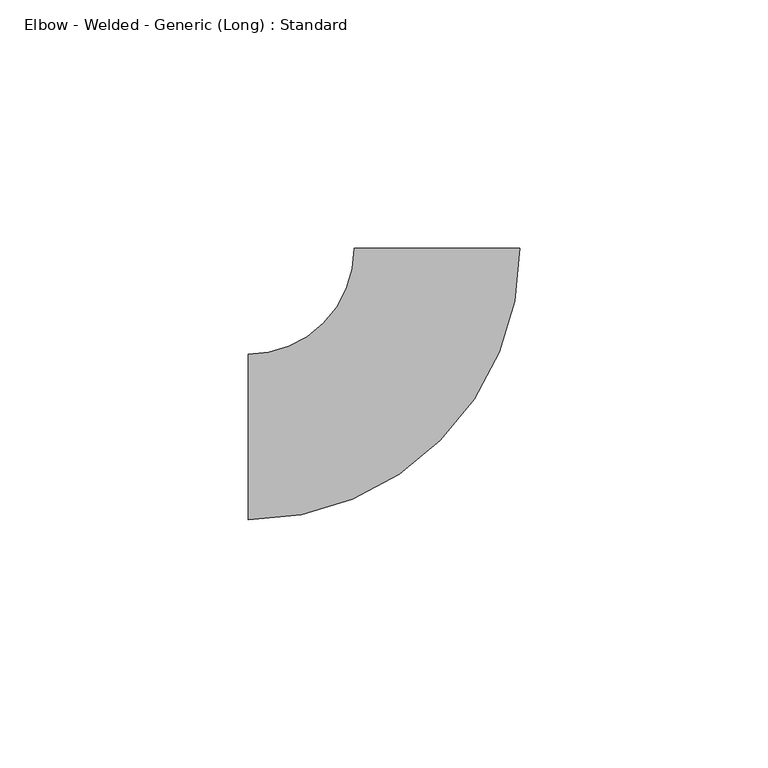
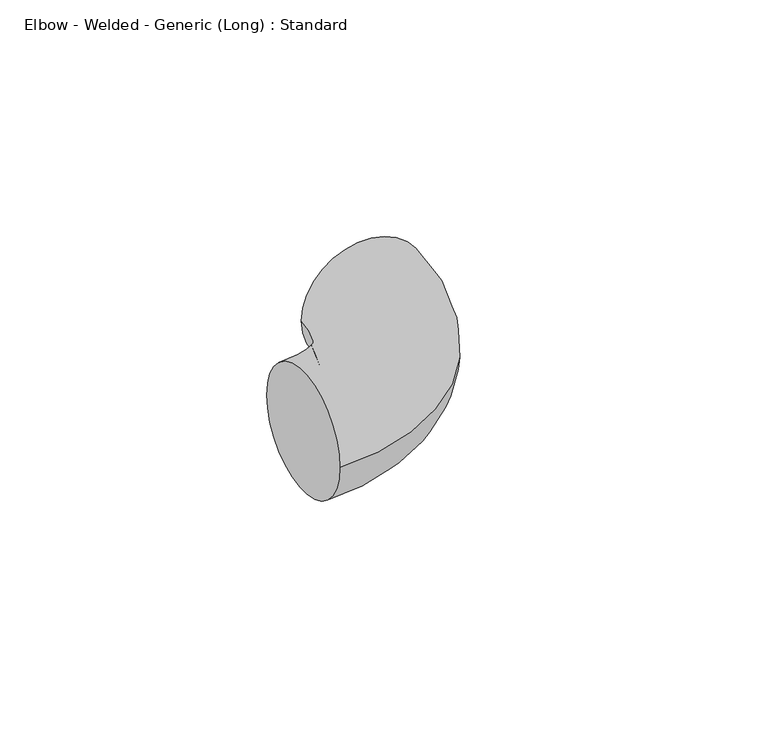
"""IFC4 building model written with IfcOpenShell, lengths in millimetres: pipe fitting geometry, Elbow - Welded - Generic (Long) : Standard."""

import ifcopenshell
import ifcopenshell.guid

model = None  # the IFC model being written
_history = None  # IfcOwnerHistory: only IFC2X3 demands one
_inside = {}  # id of a spatial element -> (the spatial element, [elements in it])
_under = {}  # id of a project, library or spatial element -> (it, [spatial elements below it])
_declared = {}  # id of a project -> (the project, [libraries it declares])
_typed = {}  # id of a type object -> (the type object, [elements of that type])
_made_of = {}  # id of a material, layer set ... -> (it, [elements and type objects made of it])


def new_model(schema):
    """Start an empty IFC model of exactly this schema.

    Asked for "IFC4X3", IfcOpenShell would pick the latest addendum, in which some entities
    have other attributes; the version numbers below select the first issue.
    IFC2X3 requires an IfcOwnerHistory on every rooted entity: one is made here for all.
    """
    global model, _history
    if schema == "IFC4X3":
        model = ifcopenshell.file(schema_version=(4, 3, 0, 0))
    else:
        model = ifcopenshell.file(schema=schema)
    _inside.clear()
    _under.clear()
    _declared.clear()
    _typed.clear()
    _made_of.clear()
    _history = None
    if model.schema == "IFC2X3":
        org = make("IfcOrganization", Name="unknown")
        user = make(
            "IfcPersonAndOrganization",
            ThePerson=make("IfcPerson", FamilyName="unknown"),
            TheOrganization=org,
        )
        app = make(
            "IfcApplication",
            ApplicationDeveloper=org,
            Version="unknown",
            ApplicationFullName="unknown",
            ApplicationIdentifier="unknown",
        )
        _history = make(
            "IfcOwnerHistory",
            OwningUser=user,
            OwningApplication=app,
            ChangeAction="ADDED",
            CreationDate=0,
        )
    return model


def make(cls, **values):
    """One entity of the class cls with the attributes given. An attribute that is None is left unset."""
    return model.create_entity(
        cls, **{name: value for name, value in values.items() if value is not None}
    )


def rooted(cls, **values):
    """An entity with a GlobalId (a new one), such as an element, a storey or a relation."""
    return make(cls, GlobalId=ifcopenshell.guid.new(), OwnerHistory=_history, **values)


def si_unit(unit_type, name, prefix=None):
    """IfcSIUnit, for example si_unit("LENGTHUNIT", "METRE", prefix="MILLI")."""
    return make("IfcSIUnit", UnitType=unit_type, Prefix=prefix, Name=name)


def assignment(units):
    """IfcUnitAssignment: the units of a project."""
    return None if units is None else make("IfcUnitAssignment", Units=units)


def point(xyz):
    """IfcCartesianPoint."""
    return None if xyz is None else make("IfcCartesianPoint", Coordinates=xyz)


def direction(xyz):
    """IfcDirection."""
    return None if xyz is None else make("IfcDirection", DirectionRatios=xyz)


def frame(location, z_axis=None, x_axis=None):
    """IfcAxis2Placement3D, a coordinate frame: its origin and axes. An axis left out is left unset."""
    return make(
        "IfcAxis2Placement3D",
        Location=point(location),
        Axis=direction(z_axis),
        RefDirection=direction(x_axis),
    )


def origin():
    """The frame at (0, 0, 0) with its axes left unset."""
    return frame((0.0, 0.0, 0.0))


def place(relative_to, where):
    """IfcLocalPlacement: puts the frame where relative to a parent placement (None: the world)."""
    return make(
        "IfcLocalPlacement", PlacementRelTo=relative_to, RelativePlacement=where
    )


def context(
    kind, dimensions, precision=None, world=None, true_north=None, identifier=None
):
    """IfcGeometricRepresentationContext, for example the 3D "Model" context."""
    return make(
        "IfcGeometricRepresentationContext",
        ContextIdentifier=identifier,
        ContextType=kind,
        CoordinateSpaceDimension=dimensions,
        Precision=precision,
        WorldCoordinateSystem=world,
        TrueNorth=true_north,
    )


def project(units=None, contexts=None):
    """IfcProject with its units and contexts."""
    return rooted(
        "IfcProject",
        Name="project",
        RepresentationContexts=contexts,
        UnitsInContext=assignment(units),
    )


def spatial(cls, under=None, at=None, **own):
    """A site, building, storey or space (cls), placed at a placement, below another one or the project."""
    s = rooted(cls, ObjectPlacement=at, **own)
    if under is not None:
        _under.setdefault(under.id(), (under, []))[1].append(s)
    return s


def circle_curve(where, radius):
    """IfcCircle in the frame where."""
    return make("IfcCircle", Position=where, Radius=radius)


def ellipse_curve(where, semi_axis1, semi_axis2):
    """IfcEllipse in the frame where."""
    return make(
        "IfcEllipse", Position=where, SemiAxis1=semi_axis1, SemiAxis2=semi_axis2
    )


def trimmed(basis, trim1, trim2, sense, master):
    """IfcTrimmedCurve: the piece of a basis curve between two trims."""
    return make(
        "IfcTrimmedCurve",
        BasisCurve=basis,
        Trim1=trim1,
        Trim2=trim2,
        SenseAgreement=sense,
        MasterRepresentation=master,
    )


def shape(context_of_items, identifier, shape_type, items):
    """IfcShapeRepresentation: the items that make up one representation, for example the "Body"."""
    return make(
        "IfcShapeRepresentation",
        ContextOfItems=context_of_items,
        RepresentationIdentifier=identifier,
        RepresentationType=shape_type,
        Items=items,
    )


def source(mapping_origin, context_of_items, identifier, shape_type, items):
    """IfcRepresentationMap: a shape defined once, which mapped items show again and again."""
    return make(
        "IfcRepresentationMap",
        MappingOrigin=mapping_origin,
        MappedRepresentation=shape(context_of_items, identifier, shape_type, items),
    )


def transform(
    local_origin,
    x_axis=None,
    y_axis=None,
    z_axis=None,
    scale=None,
    scale2=None,
    scale3=None,
    uniform=True,
):
    """IfcCartesianTransformationOperator3D, or its non-uniform kind. x_axis, y_axis, z_axis: its Axis1, 2, 3."""
    if uniform:
        return make(
            "IfcCartesianTransformationOperator3D",
            Axis1=direction(x_axis),
            Axis2=direction(y_axis),
            LocalOrigin=point(local_origin),
            Scale=scale,
            Axis3=direction(z_axis),
        )
    return make(
        "IfcCartesianTransformationOperator3DnonUniform",
        Axis1=direction(x_axis),
        Axis2=direction(y_axis),
        LocalOrigin=point(local_origin),
        Scale=scale,
        Axis3=direction(z_axis),
        Scale2=scale2,
        Scale3=scale3,
    )


def mapped(mapping_source, mapping_target):
    """IfcMappedItem: shows the shape of a source again, moved by a transform."""
    return make(
        "IfcMappedItem", MappingSource=mapping_source, MappingTarget=mapping_target
    )


def made_of(thing, what):
    """Note that an element or type object is made of a material, layer set ...; save() writes the relation."""
    if what is not None:
        _made_of.setdefault(what.id(), (what, []))[1].append(thing)
    return thing


def element(
    cls,
    number,
    at=None,
    inside=None,
    cuts=None,
    type_object=None,
    material=None,
    context=None,
    identifier="Body",
    shape_type=None,
    held_by="IfcProductDefinitionShape",
    body=None,
    shapes=None,
    **own,
):
    """One element of the class cls, such as IfcWall. Its Tag is "e" and its number.

    at: its placement. inside: the storey or other place that contains it. cuts: it is an
    opening in that element (IfcRelVoidsElement). A single representation is given by context,
    identifier, shape_type and body (its items); several are given by shapes. held_by: the class
    of the entity that holds the representations. save() writes the other relations.
    """
    e = rooted(cls, Tag="e%d" % number, ObjectPlacement=at, **own)
    if body is not None:
        shapes = [shape(context, identifier, shape_type, body)]
    if shapes is not None:
        e.Representation = make(held_by, Representations=shapes)
    if inside is not None:
        _inside.setdefault(inside.id(), (inside, []))[1].append(e)
    if cuts is not None:
        rooted(
            "IfcRelVoidsElement", RelatingBuildingElement=cuts, RelatedOpeningElement=e
        )
    if type_object is not None:
        _typed.setdefault(type_object.id(), (type_object, []))[1].append(e)
    return made_of(e, material)


def aggregate(whole, parts):
    """IfcRelAggregates: a whole, such as a stair, and the parts it consists of."""
    return rooted("IfcRelAggregates", RelatingObject=whole, RelatedObjects=parts)


def save(model, path):
    """Write the relations noted so far, then the file.

    IfcRelAggregates (storeys below a building ...), IfcRelContainedInSpatialStructure (elements
    in a storey), IfcRelDefinesByType, IfcRelAssociatesMaterial and IfcRelDeclares: one each for
    every whole, place, type object, material and project.
    """
    for whole, parts in _under.values():
        aggregate(whole, parts)
    for where, things in _inside.values():
        rooted(
            "IfcRelContainedInSpatialStructure",
            RelatedElements=things,
            RelatingStructure=where,
        )
    for kind, things in _typed.values():
        rooted("IfcRelDefinesByType", RelatedObjects=things, RelatingType=kind)
    for what, things in _made_of.values():
        rooted("IfcRelAssociatesMaterial", RelatedObjects=things, RelatingMaterial=what)
    for by, libraries in _declared.values():
        rooted("IfcRelDeclares", RelatingContext=by, RelatedDefinitions=libraries)
    model.write(path)


def plane_surface(at):
    """IfcPlane: the flat surface through the origin of the frame at, square to its z axis."""
    return make("IfcPlane", Position=at)


def revolved_surface(curve, axis_point, axis_direction):
    """IfcSurfaceOfRevolution: the curve turned about the line through axis_point along axis_direction."""
    return make(
        "IfcSurfaceOfRevolution",
        SweptCurve=make("IfcArbitraryOpenProfileDef", ProfileType="CURVE", Curve=curve),
        AxisPosition=make("IfcAxis1Placement", Location=point(axis_point), Axis=direction(axis_direction)),
    )


def advanced_brep(points, edges, surfaces, faces):
    """IfcAdvancedBrep: a solid bounded by faces that lie on surfaces and meet in shared edges.

    An edge is (start, end): straight between two places in points (the first is 0);
    or (start, end, curve); or (start, end, curve, False) where it runs against its curve.
    A face is (place in surfaces, loops), or (place, loops, False) where it looks against
    its surface's normal. A loop lists edges by number (the first is 1), with a minus sign
    where the edge is run from its end to its start. The first loop is the outer one.
    """
    corners = [point(p) for p in points]
    vertices = [make("IfcVertexPoint", VertexGeometry=c) for c in corners]
    made = []
    for start, end, *more in edges:
        made.append(
            make(
                "IfcEdgeCurve",
                EdgeStart=vertices[start],
                EdgeEnd=vertices[end],
                EdgeGeometry=more[0] if more else make("IfcPolyline", Points=[corners[start], corners[end]]),
                SameSense=more[1] if len(more) > 1 else True,
            )
        )
    hull = []
    for where, loops, *sense in faces:
        bounds = []
        for j, loop in enumerate(loops):
            ring = [make("IfcOrientedEdge", EdgeElement=made[abs(k) - 1], Orientation=k > 0) for k in loop]
            bounds.append(
                make(
                    "IfcFaceOuterBound" if j == 0 else "IfcFaceBound",
                    Bound=make("IfcEdgeLoop", EdgeList=ring),
                    Orientation=True,
                )
            )
        hull.append(make("IfcAdvancedFace", Bounds=bounds, FaceSurface=surfaces[where], SameSense=sense[0] if sense else True))
    return make("IfcAdvancedBrep", Outer=make("IfcClosedShell", CfsFaces=hull))


def elbow_welded_generic_long_standard_fbeccbdd(model_context):
    return source(origin(), model_context, "Body", "AdvancedBrep", [
        advanced_brep(
        [(-38.1, -16.66875, 0.0), (-38.1, 16.66875, 0.0), (16.6682085, 38.1002369, 0.0), (-16.6692915, 38.0997631, 0.0)],
        [
            (0, 1, circle_curve(frame((-38.1, 0.0, 0.0), z_axis=(-1.0, 0.0, 0.0), x_axis=(0.0, 1.0, 0.0)), 16.66875)),
            (1, 0, circle_curve(frame((-38.1, 0.0, 0.0), z_axis=(-1.0, 0.0, 0.0), x_axis=(0.0, 1.0, 0.0)), 16.66875)),
            (2, 3, circle_curve(frame((-0.0005415, 38.1, 0.0), z_axis=(-1.4211969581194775e-05, 0.99999999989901, 0.0), x_axis=(-0.99999999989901, -1.4211969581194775e-05, 0.0)), 16.66875)),
            (3, 2, circle_curve(frame((-0.0005415, 38.1, 0.0), z_axis=(-1.4211969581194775e-05, 0.99999999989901, 0.0), x_axis=(-0.99999999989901, -1.4211969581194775e-05, 0.0)), 16.66875)),
            (3, 1, circle_curve(frame((-38.1, 38.0994585, 0.0), z_axis=(0.0, 0.0, -1.0), x_axis=(0.0, -1.0, 0.0)), 21.4307085)),
            (0, 2, circle_curve(frame((-38.1, 38.0994585, 0.0), z_axis=(0.0, 0.0, 1.0), x_axis=(0.0, -1.0, 0.0)), 54.7682085)),
        ],
        [
            plane_surface(frame((-38.1, 0.0, 0.0), z_axis=(-1.0, 0.0, 0.0), x_axis=(0.0, 0.0, 1.0))),
            plane_surface(frame((-0.0005415, 38.1, 0.0), z_axis=(-1.4211969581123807e-05, 0.99999999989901, 0.0), x_axis=(0.0, 0.0, 1.0))),
            revolved_surface(trimmed(ellipse_curve(frame((-38.1, 0.0, 0.0), z_axis=(-1.0, 0.0, 0.0), x_axis=(0.0, 1.0, 0.0)), 16.66875, 16.66875), [point((-38.1, -16.66875, 0.0))], [point((-38.1, 16.66875, 0.0))], True, "CARTESIAN"), (-38.1, 38.0994585, 0.0), (0.0, 0.0, 1.0)),
            revolved_surface(trimmed(ellipse_curve(frame((-38.1, 0.0, 0.0), z_axis=(-1.0, 0.0, 0.0), x_axis=(0.0, 1.0, 0.0)), 16.66875, 16.66875), [point((-38.1, 16.66875, 0.0))], [point((-38.1, -16.66875, 0.0))], True, "CARTESIAN"), (-38.1, 38.0994585, 0.0), (0.0, 0.0, 1.0)),
        ],
        [
            (0, [[1, 2]]),
            (1, [[3, 4]]),
            (2, [[5, -1, 6, -4]]),
            (3, [[-6, -2, -5, -3]]),
        ],
    ),
    ])


if __name__ == "__main__":
    model = new_model("IFC4")
    model_context = context("Model", 3, world=origin())
    ifc_project = project(units=[si_unit("LENGTHUNIT", "METRE", prefix="MILLI")], contexts=[model_context])
    site = spatial("IfcSite", under=ifc_project)
    building = spatial("IfcBuilding", under=site)
    placement = place(None, origin())
    elbow_welded_generic_long_standard_shape = elbow_welded_generic_long_standard_fbeccbdd(model_context)
    element("IfcPipeFitting", 1, ObjectType="Elbow - Welded - Generic (Long) : Standard", at=placement, inside=building, context=model_context, shape_type="MappedRepresentation", body=[
        mapped(elbow_welded_generic_long_standard_shape, transform((0.0, 0.0, 0.0), x_axis=(1.0, 0.0, 0.0), y_axis=(0.0, 1.0, 0.0), z_axis=(0.0, 0.0, 1.0))),
    ])
    save(model, "model.ifc")
